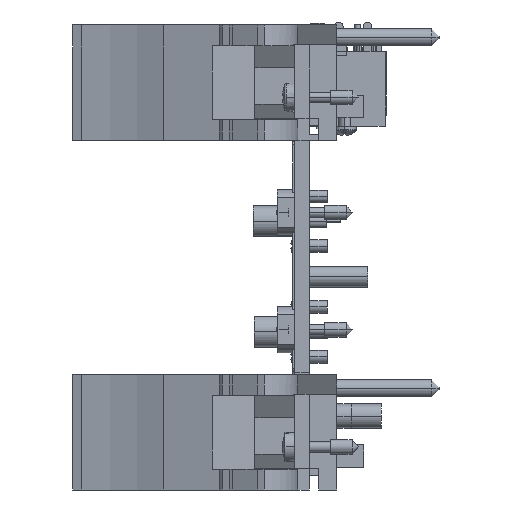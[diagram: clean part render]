
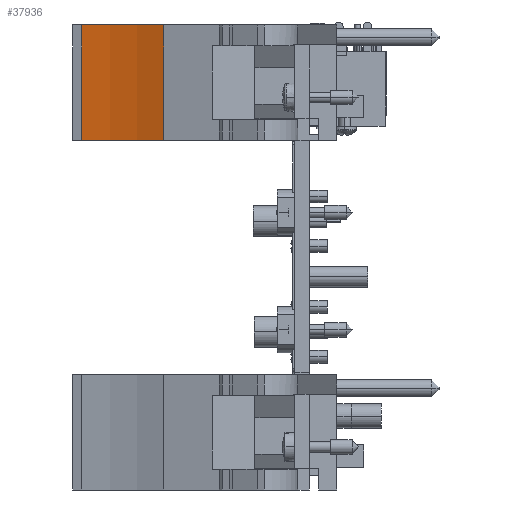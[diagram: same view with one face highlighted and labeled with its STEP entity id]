
A CAD part, front view. The second image highlights one B-rep face of the part: STEP entity #37936.
In plain terms, the highlighted cylindrical face has radius 51.46 mm (diameter 102.919 mm), a partial arc.
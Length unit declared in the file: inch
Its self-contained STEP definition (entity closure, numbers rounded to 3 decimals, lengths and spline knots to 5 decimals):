
#524=CARTESIAN_POINT('',(-1.97682,-5.96253,2.295));
#525=DIRECTION('',(0.,0.,1.));
#526=DIRECTION('',(0.435,0.9,0.));
#527=AXIS2_PLACEMENT_3D('',#524,#525,#526);
#11786=CARTESIAN_POINT('',(-1.97682,-5.96253,3.083));
#11787=DIRECTION('',(0.,0.,1.));
#11788=DIRECTION('',(0.435,0.9,0.));
#11789=AXIS2_PLACEMENT_3D('',#11786,#11787,#11788);
#12165=DIRECTION('',(0.,0.,1.));
#12166=VECTOR('',#12165,0.788);
#12167=CARTESIAN_POINT('',(-1.09552,-4.13829,2.295));
#12168=LINE('',#12167,#12166);
#12181=DIRECTION('',(0.,0.,1.));
#12182=VECTOR('',#12181,0.788);
#12183=CARTESIAN_POINT('',(-1.65349,-3.96253,2.295));
#12184=LINE('',#12183,#12182);
#20014=CARTESIAN_POINT('',(-1.09552,-4.13829,2.295));
#20015=CARTESIAN_POINT('',(-1.65349,-3.96253,2.295));
#20016=VERTEX_POINT('',#20014);
#20017=VERTEX_POINT('',#20015);
#20018=CARTESIAN_POINT('',(-1.09552,-4.13829,3.083));
#20019=CARTESIAN_POINT('',(-1.65349,-3.96253,3.083));
#20020=VERTEX_POINT('',#20018);
#20021=VERTEX_POINT('',#20019);
#37924=CARTESIAN_POINT('',(-1.97682,-5.96253,3.083));
#37925=DIRECTION('',(0.,0.,1.));
#37926=DIRECTION('',(0.,1.,0.));
#37927=AXIS2_PLACEMENT_3D('',#37924,#37925,#37926);
#37928=CYLINDRICAL_SURFACE('',#37927,2.02597);
#37929=ORIENTED_EDGE('',*,*,#22002,.T.);
#37931=ORIENTED_EDGE('',*,*,#37930,.T.);
#37932=ORIENTED_EDGE('',*,*,#37330,.F.);
#37933=ORIENTED_EDGE('',*,*,#37910,.F.);
#37934=EDGE_LOOP('',(#37929,#37931,#37932,#37933));
#37935=FACE_OUTER_BOUND('',#37934,.F.);
#37936=ADVANCED_FACE('',(#37935),#37928,.F.);
#528=CIRCLE('',#527,2.02597);
#11790=CIRCLE('',#11789,2.02597);
#22002=EDGE_CURVE('',#20016,#20017,#528,.T.);
#37330=EDGE_CURVE('',#20020,#20021,#11790,.T.);
#37910=EDGE_CURVE('',#20016,#20020,#12168,.T.);
#37930=EDGE_CURVE('',#20017,#20021,#12184,.T.);
